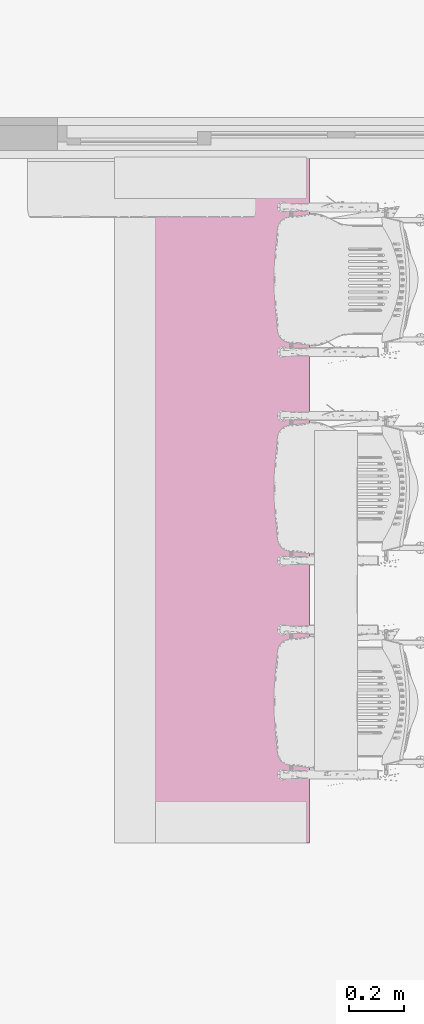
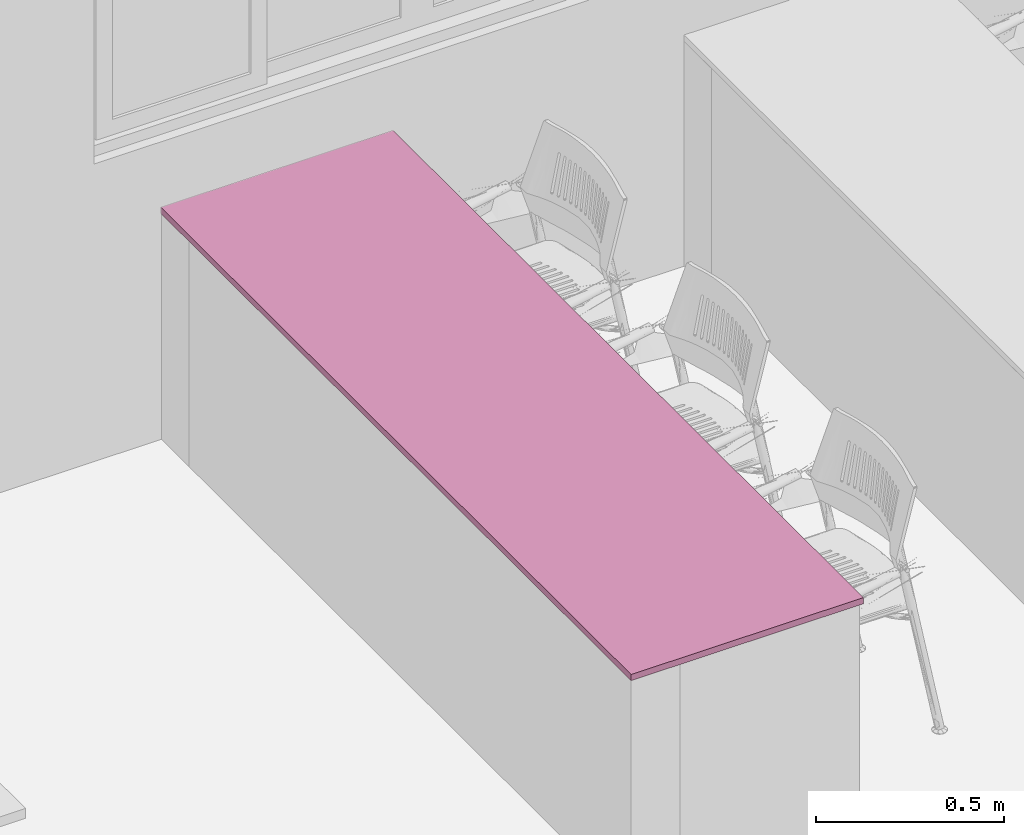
# One storey, part 149 of 155: 1 furnishing.
"""IFC2X3 building model written with IfcOpenShell, lengths in metres."""

from ifc_helpers import new_model, entity, si_unit, converted_unit, derived_unit, direction, frame, frame_2d, origin, place, context, subcontext, project, spatial, rectangle, extrude, source, transform, mapped, type_object, type_shapes, element, save


model = new_model("IFC2X3")

# Units and contexts
model_context = context("Model", 3, precision=1e-05, world=origin(), true_north=direction((6.12303176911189e-17, 1.0)))
body_context = subcontext(model_context, "Body", "Model", "MODEL_VIEW")
ifc_project = project(units=[si_unit("LENGTHUNIT", "METRE"), si_unit("AREAUNIT", "SQUARE_METRE"), si_unit("VOLUMEUNIT", "CUBIC_METRE"), converted_unit("PLANEANGLEUNIT", "DEGREE", entity("IfcRatioMeasure", 0.0174532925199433), si_unit("PLANEANGLEUNIT", "RADIAN"), dimensions=[0, 0, 0, 0, 0, 0, 0]), si_unit("MASSUNIT", "GRAM", prefix="KILO"), derived_unit("MASSDENSITYUNIT", [(si_unit("MASSUNIT", "GRAM", prefix="KILO"), 1), (si_unit("LENGTHUNIT", "METRE"), -3)]), si_unit("TIMEUNIT", "SECOND"), si_unit("FREQUENCYUNIT", "HERTZ"), si_unit("THERMODYNAMICTEMPERATUREUNIT", "DEGREE_CELSIUS"), derived_unit("THERMALTRANSMITTANCEUNIT", [(si_unit("MASSUNIT", "GRAM", prefix="KILO"), 1), (si_unit("THERMODYNAMICTEMPERATUREUNIT", "KELVIN"), -1), (si_unit("TIMEUNIT", "SECOND"), -3)]), derived_unit("VOLUMETRICFLOWRATEUNIT", [(si_unit("LENGTHUNIT", "METRE"), 3), (si_unit("TIMEUNIT", "SECOND"), -1)]), si_unit("ELECTRICCURRENTUNIT", "AMPERE"), si_unit("ELECTRICVOLTAGEUNIT", "VOLT"), si_unit("POWERUNIT", "WATT"), si_unit("FORCEUNIT", "NEWTON", prefix="KILO"), si_unit("ILLUMINANCEUNIT", "LUX"), si_unit("LUMINOUSFLUXUNIT", "LUMEN"), si_unit("LUMINOUSINTENSITYUNIT", "CANDELA"), derived_unit("USERDEFINED", [(si_unit("MASSUNIT", "GRAM", prefix="KILO"), -1), (si_unit("LENGTHUNIT", "METRE"), -2), (si_unit("TIMEUNIT", "SECOND"), 3), (si_unit("LUMINOUSFLUXUNIT", "LUMEN"), 1)]), derived_unit("LINEARVELOCITYUNIT", [(si_unit("LENGTHUNIT", "METRE"), 1), (si_unit("TIMEUNIT", "SECOND"), -1)]), si_unit("PRESSUREUNIT", "PASCAL"), derived_unit("USERDEFINED", [(si_unit("LENGTHUNIT", "METRE"), -2), (si_unit("MASSUNIT", "GRAM", prefix="KILO"), 1), (si_unit("TIMEUNIT", "SECOND"), -2)])], contexts=[model_context])

# Site, building, storey, space
site_placement = place(None, frame((26.9889013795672, -17.5624287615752, 0.0)))
site = spatial("IfcSite", under=ifc_project, at=site_placement, Name="Default", CompositionType="ELEMENT")
building_placement = place(site_placement, origin())
building = spatial("IfcBuilding", under=site, at=building_placement, Name="C. C. L. Monsenhor Antônio Sampaio", CompositionType="ELEMENT")
storey_placement = place(building_placement, frame((0.0, 0.0, 1.19999999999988)))
storey = spatial("IfcBuildingStorey", under=building, at=storey_placement, Name="Nível 1.2", CompositionType="ELEMENT", Elevation=1.19999999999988)
space_placement = place(storey_placement, origin())
space = spatial("IfcSpace", under=storey, at=space_placement, Name="89", CompositionType="ELEMENT", InteriorOrExteriorSpace="INTERNAL")

# Furnishing
furniture_type = type_object("IfcFurnitureType", Name="Bancada")
shared_shape = source(origin(), body_context, "Body", "SweptSolid", [
    extrude(rectangle(XDim=2.5, YDim=0.712499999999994, at=frame_2d((-1.11022302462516e-15, 0.0), x_axis=(1.0, 0.0))), frame((7.27819770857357, -11.5480663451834, 1.92999999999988), z_axis=(0.0, 0.0, 1.0), x_axis=(0.0, -1.0, 0.0)), (0.0, 0.0, 1.0), 0.0200000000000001),
])
type_shapes(furniture_type, [shared_shape])
furnishing_placement = place(space_placement, frame((0.0, 0.0, -1.19999999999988)))
element("IfcFurnishingElement", 1, at=furnishing_placement, inside=space, type_object=furniture_type, Name="Bancada_balcao:Bancada", ObjectType="Bancada", context=body_context, shape_type="MappedRepresentation", body=[
    mapped(shared_shape, transform((0.0, 0.0, 0.0), scale=1.0)),
])

save(model, "model.ifc")
